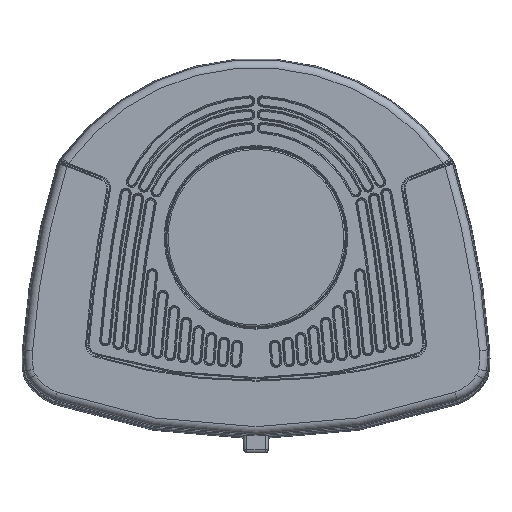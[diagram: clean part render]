
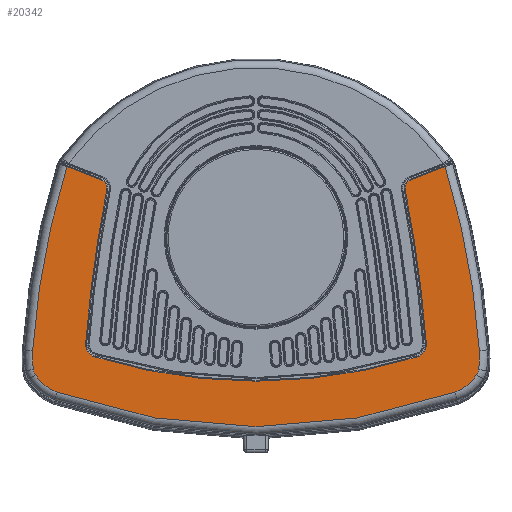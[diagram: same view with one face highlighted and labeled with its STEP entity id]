
A CAD part, top view. The second image highlights one B-rep face of the part: STEP entity #20342.
In plain terms, the highlighted planar face has unit normal (0, 0, 1).
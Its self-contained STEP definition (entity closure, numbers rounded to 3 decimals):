
#2334=CIRCLE('',#22523,12.999);
#2335=CIRCLE('',#22524,538.999);
#2336=CIRCLE('',#22525,538.999);
#2337=CIRCLE('',#22526,12.999);
#2338=CIRCLE('',#22527,1334.993);
#2339=CIRCLE('',#22528,8.496);
#2340=CIRCLE('',#22529,12.475);
#2341=CIRCLE('',#22530,793.836);
#2342=CIRCLE('',#22531,84.836);
#2343=CIRCLE('',#22532,13.836);
#2344=CIRCLE('',#22533,41.836);
#2345=CIRCLE('',#22534,583.836);
#2346=CIRCLE('',#22535,41.836);
#2347=CIRCLE('',#22536,13.836);
#2348=CIRCLE('',#22537,84.836);
#2349=CIRCLE('',#22538,793.836);
#2350=CIRCLE('',#22539,12.475);
#2351=CIRCLE('',#22540,8.496);
#2352=CIRCLE('',#22541,1334.993);
#3737=LINE('',#48680,#5007);
#3738=LINE('',#48704,#5008);
#5007=VECTOR('',#27581,1000.);
#5008=VECTOR('',#27604,1000.);
#10603=ORIENTED_EDGE('',*,*,#13936,.T.);
#10604=ORIENTED_EDGE('',*,*,#13937,.T.);
#10605=ORIENTED_EDGE('',*,*,#13938,.F.);
#10606=ORIENTED_EDGE('',*,*,#13939,.F.);
#10607=ORIENTED_EDGE('',*,*,#13940,.F.);
#10608=ORIENTED_EDGE('',*,*,#13941,.F.);
#10609=ORIENTED_EDGE('',*,*,#13942,.F.);
#10610=ORIENTED_EDGE('',*,*,#13943,.F.);
#10611=ORIENTED_EDGE('',*,*,#13944,.F.);
#10612=ORIENTED_EDGE('',*,*,#13945,.F.);
#10613=ORIENTED_EDGE('',*,*,#13946,.F.);
#10614=ORIENTED_EDGE('',*,*,#13947,.F.);
#10615=ORIENTED_EDGE('',*,*,#13948,.T.);
#10616=ORIENTED_EDGE('',*,*,#13949,.T.);
#10617=ORIENTED_EDGE('',*,*,#13950,.T.);
#10618=ORIENTED_EDGE('',*,*,#13951,.T.);
#10619=ORIENTED_EDGE('',*,*,#13952,.T.);
#10620=ORIENTED_EDGE('',*,*,#13953,.T.);
#10621=ORIENTED_EDGE('',*,*,#13954,.T.);
#10622=ORIENTED_EDGE('',*,*,#13955,.T.);
#10623=ORIENTED_EDGE('',*,*,#13956,.T.);
#13936=EDGE_CURVE('',#15913,#15914,#2334,.T.);
#13937=EDGE_CURVE('',#15914,#15915,#2335,.T.);
#13938=EDGE_CURVE('',#15916,#15915,#2336,.T.);
#13939=EDGE_CURVE('',#15917,#15916,#2337,.T.);
#13940=EDGE_CURVE('',#15918,#15917,#2338,.T.);
#13941=EDGE_CURVE('',#15919,#15918,#2339,.F.);
#13942=EDGE_CURVE('',#15920,#15919,#3737,.F.);
#13943=EDGE_CURVE('',#15921,#15920,#2340,.F.);
#13944=EDGE_CURVE('',#15922,#15921,#2341,.F.);
#13945=EDGE_CURVE('',#15923,#15922,#2342,.F.);
#13946=EDGE_CURVE('',#15924,#15923,#2343,.F.);
#13947=EDGE_CURVE('',#15925,#15924,#2344,.F.);
#13948=EDGE_CURVE('',#15925,#15926,#2345,.F.);
#13949=EDGE_CURVE('',#15926,#15927,#2346,.F.);
#13950=EDGE_CURVE('',#15927,#15928,#2347,.F.);
#13951=EDGE_CURVE('',#15928,#15929,#2348,.F.);
#13952=EDGE_CURVE('',#15929,#15930,#2349,.F.);
#13953=EDGE_CURVE('',#15930,#15931,#2350,.F.);
#13954=EDGE_CURVE('',#15931,#15932,#3738,.F.);
#13955=EDGE_CURVE('',#15932,#15933,#2351,.F.);
#13956=EDGE_CURVE('',#15933,#15913,#2352,.T.);
#15913=VERTEX_POINT('',#48668);
#15914=VERTEX_POINT('',#48669);
#15915=VERTEX_POINT('',#48671);
#15916=VERTEX_POINT('',#48673);
#15917=VERTEX_POINT('',#48675);
#15918=VERTEX_POINT('',#48677);
#15919=VERTEX_POINT('',#48679);
#15920=VERTEX_POINT('',#48681);
#15921=VERTEX_POINT('',#48683);
#15922=VERTEX_POINT('',#48685);
#15923=VERTEX_POINT('',#48687);
#15924=VERTEX_POINT('',#48689);
#15925=VERTEX_POINT('',#48691);
#15926=VERTEX_POINT('',#48693);
#15927=VERTEX_POINT('',#48695);
#15928=VERTEX_POINT('',#48697);
#15929=VERTEX_POINT('',#48699);
#15930=VERTEX_POINT('',#48701);
#15931=VERTEX_POINT('',#48703);
#15932=VERTEX_POINT('',#48705);
#15933=VERTEX_POINT('',#48707);
#17353=EDGE_LOOP('',(#10603,#10604,#10605,#10606,#10607,#10608,#10609,#10610,
#10611,#10612,#10613,#10614,#10615,#10616,#10617,#10618,#10619,#10620,#10621,
#10622,#10623));
#18708=FACE_BOUND('',#17353,.T.);
#19183=PLANE('',#22522);
#20342=ADVANCED_FACE('',(#18708),#19183,.F.);
#22522=AXIS2_PLACEMENT_3D('',#48666,#27567,#27568);
#22523=AXIS2_PLACEMENT_3D('',#48667,#27569,#27570);
#22524=AXIS2_PLACEMENT_3D('',#48670,#27571,#27572);
#22525=AXIS2_PLACEMENT_3D('',#48672,#27573,#27574);
#22526=AXIS2_PLACEMENT_3D('',#48674,#27575,#27576);
#22527=AXIS2_PLACEMENT_3D('',#48676,#27577,#27578);
#22528=AXIS2_PLACEMENT_3D('',#48678,#27579,#27580);
#22529=AXIS2_PLACEMENT_3D('',#48682,#27582,#27583);
#22530=AXIS2_PLACEMENT_3D('',#48684,#27584,#27585);
#22531=AXIS2_PLACEMENT_3D('',#48686,#27586,#27587);
#22532=AXIS2_PLACEMENT_3D('',#48688,#27588,#27589);
#22533=AXIS2_PLACEMENT_3D('',#48690,#27590,#27591);
#22534=AXIS2_PLACEMENT_3D('',#48692,#27592,#27593);
#22535=AXIS2_PLACEMENT_3D('',#48694,#27594,#27595);
#22536=AXIS2_PLACEMENT_3D('',#48696,#27596,#27597);
#22537=AXIS2_PLACEMENT_3D('',#48698,#27598,#27599);
#22538=AXIS2_PLACEMENT_3D('',#48700,#27600,#27601);
#22539=AXIS2_PLACEMENT_3D('',#48702,#27602,#27603);
#22540=AXIS2_PLACEMENT_3D('',#48706,#27605,#27606);
#22541=AXIS2_PLACEMENT_3D('',#48708,#27607,#27608);
#27567=DIRECTION('',(0.,0.,-1.));
#27568=DIRECTION('',(-1.,0.,0.));
#27569=DIRECTION('',(0.,0.,-1.));
#27570=DIRECTION('',(-1.,0.,0.));
#27571=DIRECTION('',(0.,0.,-1.));
#27572=DIRECTION('',(-1.,0.,0.));
#27573=DIRECTION('',(0.,0.,1.));
#27574=DIRECTION('',(1.,0.,0.));
#27575=DIRECTION('',(0.,0.,1.));
#27576=DIRECTION('',(1.,0.,0.));
#27577=DIRECTION('',(0.,0.,1.));
#27578=DIRECTION('',(1.,0.,0.));
#27579=DIRECTION('',(0.,0.,1.));
#27580=DIRECTION('',(1.,0.,0.));
#27581=DIRECTION('',(-0.932,0.363,0.));
#27582=DIRECTION('',(0.,0.,1.));
#27583=DIRECTION('',(1.,0.,0.));
#27584=DIRECTION('',(0.,0.,1.));
#27585=DIRECTION('',(1.,0.,0.));
#27586=DIRECTION('',(0.,0.,1.));
#27587=DIRECTION('',(1.,0.,0.));
#27588=DIRECTION('',(0.,0.,1.));
#27589=DIRECTION('',(1.,0.,0.));
#27590=DIRECTION('',(0.,0.,1.));
#27591=DIRECTION('',(1.,0.,0.));
#27592=DIRECTION('',(0.,0.,-1.));
#27593=DIRECTION('',(-1.,0.,0.));
#27594=DIRECTION('',(0.,0.,-1.));
#27595=DIRECTION('',(-1.,0.,0.));
#27596=DIRECTION('',(0.,0.,-1.));
#27597=DIRECTION('',(-1.,0.,0.));
#27598=DIRECTION('',(0.,0.,-1.));
#27599=DIRECTION('',(-1.,0.,0.));
#27600=DIRECTION('',(0.,0.,-1.));
#27601=DIRECTION('',(-1.,0.,0.));
#27602=DIRECTION('',(0.,0.,-1.));
#27603=DIRECTION('',(-1.,0.,0.));
#27604=DIRECTION('',(0.932,0.363,0.));
#27605=DIRECTION('',(0.,0.,-1.));
#27606=DIRECTION('',(-1.,0.,0.));
#27607=DIRECTION('',(0.,0.,-1.));
#27608=DIRECTION('',(-1.,0.,0.));
#48666=CARTESIAN_POINT('',(-87.203,13.772,30.));
#48667=CARTESIAN_POINT('',(154.972,-94.36,30.));
#48668=CARTESIAN_POINT('',(167.93,-93.324,30.));
#48669=CARTESIAN_POINT('',(158.801,-106.782,30.));
#48670=CARTESIAN_POINT('',(0.,408.292,30.));
#48671=CARTESIAN_POINT('',(0.,-130.706,30.));
#48672=CARTESIAN_POINT('',(0.,408.292,30.));
#48673=CARTESIAN_POINT('',(-158.801,-106.782,30.));
#48674=CARTESIAN_POINT('',(-154.972,-94.36,30.));
#48675=CARTESIAN_POINT('',(-167.93,-93.324,30.));
#48676=CARTESIAN_POINT('',(1162.826,-199.597,30.));
#48677=CARTESIAN_POINT('',(-147.075,58.019,30.));
#48678=CARTESIAN_POINT('',(-155.411,59.658,30.));
#48679=CARTESIAN_POINT('',(-152.326,67.574,30.));
#48680=CARTESIAN_POINT('',(73.827,-20.553,30.));
#48681=CARTESIAN_POINT('',(-186.27,80.801,30.));
#48682=CARTESIAN_POINT('',(-174.405,76.945,30.));
#48683=CARTESIAN_POINT('',(-186.32,80.643,30.));
#48684=CARTESIAN_POINT('',(571.827,-154.704,30.));
#48685=CARTESIAN_POINT('',(-220.15,-100.421,30.));
#48686=CARTESIAN_POINT('',(-135.513,-106.223,30.));
#48687=CARTESIAN_POINT('',(-219.361,-119.132,30.));
#48688=CARTESIAN_POINT('',(-205.686,-117.026,30.));
#48689=CARTESIAN_POINT('',(-217.444,-124.319,30.));
#48690=CARTESIAN_POINT('',(-181.892,-102.268,30.));
#48691=CARTESIAN_POINT('',(-195.931,-141.678,30.));
#48692=CARTESIAN_POINT('',(0.,408.3,30.));
#48693=CARTESIAN_POINT('',(195.931,-141.678,30.));
#48694=CARTESIAN_POINT('',(181.892,-102.268,30.));
#48695=CARTESIAN_POINT('',(217.444,-124.319,30.));
#48696=CARTESIAN_POINT('',(205.686,-117.026,30.));
#48697=CARTESIAN_POINT('',(219.361,-119.132,30.));
#48698=CARTESIAN_POINT('',(135.513,-106.223,30.));
#48699=CARTESIAN_POINT('',(220.15,-100.421,30.));
#48700=CARTESIAN_POINT('',(-571.827,-154.704,30.));
#48701=CARTESIAN_POINT('',(186.32,80.643,30.));
#48702=CARTESIAN_POINT('',(174.405,76.945,30.));
#48703=CARTESIAN_POINT('',(186.27,80.801,30.));
#48704=CARTESIAN_POINT('',(-73.827,-20.553,30.));
#48705=CARTESIAN_POINT('',(152.326,67.574,30.));
#48706=CARTESIAN_POINT('',(155.411,59.658,30.));
#48707=CARTESIAN_POINT('',(147.075,58.019,30.));
#48708=CARTESIAN_POINT('',(-1162.826,-199.597,30.));
